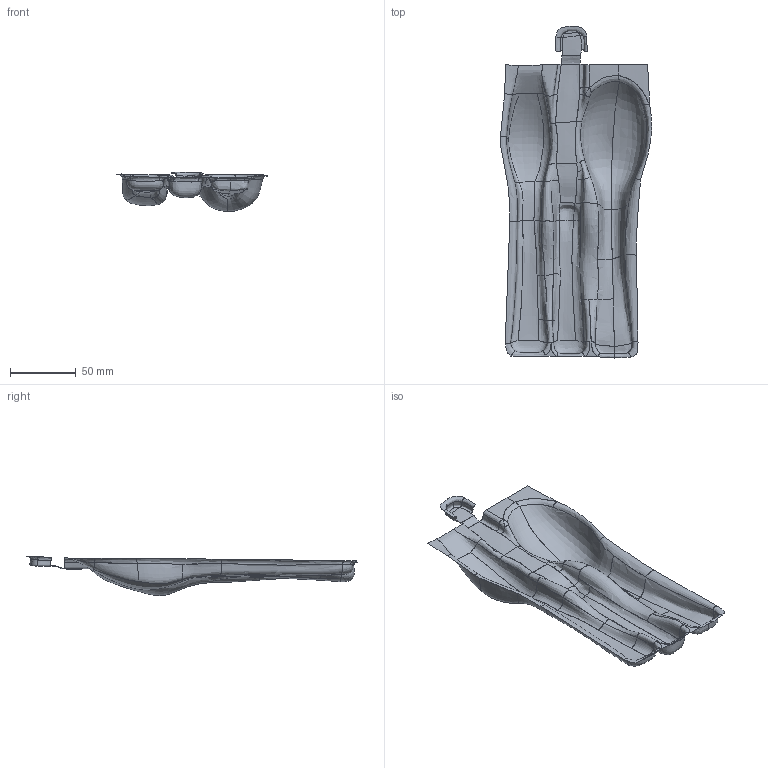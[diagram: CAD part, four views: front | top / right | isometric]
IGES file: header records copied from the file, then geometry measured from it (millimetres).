
Start section: Data from XPlus IGES,  Spatial Corp. Copyright (c) 1999-2004 .
Global section: file name: 040712_Besteckkasten_komplett.igs; native system:  By Spatial Corp.; preprocessor: XPlus ACIS/IGES 3.0; author: Noname; organization: Noname; date: 20040712.085712; units: millimetre
Bounding box: 114.85 x 252.22 x 29.77 mm (x, y, z)
Surface area: 33037.4 mm2 (no closed solid volume)
Topology: 0 solids, 0 shells, 92 faces, 368 edges, 368 vertices
Faces by surface type: bspline 92
